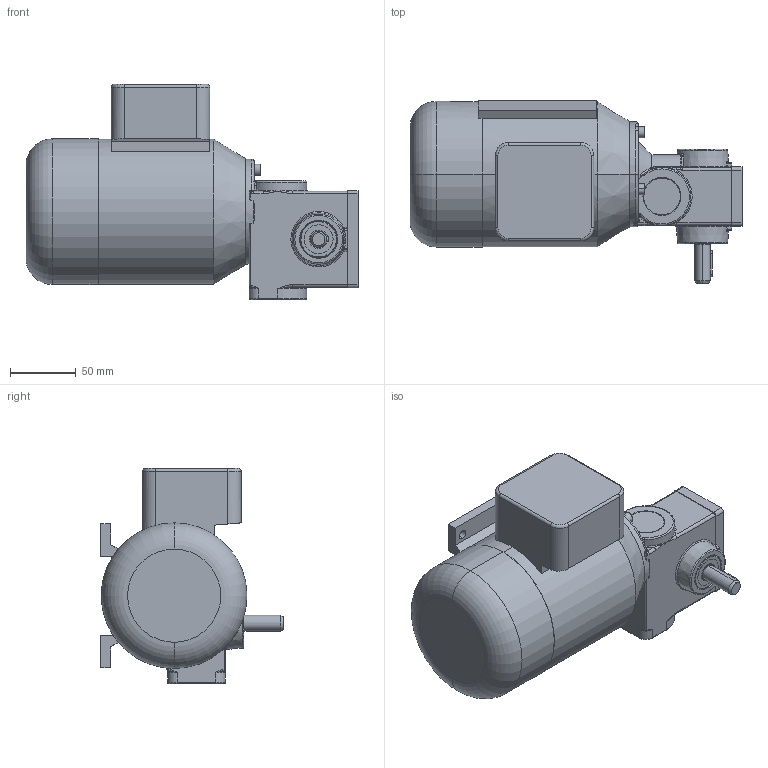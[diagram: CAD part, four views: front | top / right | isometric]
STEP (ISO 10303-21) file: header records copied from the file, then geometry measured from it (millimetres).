
FILE_DESCRIPTION (( 'STEP AP214' ), '1' );
FILE_NAME ('SN6_90W_1400Upm_Drehstrom-Motor_B.STEP', '2021-08-10T12:17:27', ( '' ), ( '' ), 'SwSTEP 2.0', 'SolidWorks 2019', '' );
FILE_SCHEMA (( 'AUTOMOTIVE_DESIGN' ));
Length unit declared in the file: millimetre
Products named in the file (12): 06-W-001_3D_Export; socket head cap screw_iso_ISO 4762 M5 x 16 - 16C; 06-G-001_3D_Export; NBR_WDR_12x28x7; K_28x9.0; K_28x4.0; SN6_90W_1400Upm_Drehstrom-Motor_B; PF_A4x4x20; socket head cap screw_iso_ISO 4762 M3 x 10 - 10C; SN6_3D_Export; 06F-D-003_3D-Export; 06-M-017 I 90W_1400Upm_B3
Assembly tree (17 placements, depth 3):
  SN6_90W_1400Upm_Drehstrom-Motor_B
    SN6_3D_Export
      06-G-001_3D_Export
      06F-D-003_3D-Export
      06-W-001_3D_Export
      PF_A4x4x20
      NBR_WDR_12x28x7
      K_28x9.0
      K_28x4.0  x2
      socket head cap screw_iso_ISO 4762 M5 x 16 - 16C  x3
      socket head cap screw_iso_ISO 4762 M3 x 10 - 10C  x4
    06-M-017 I 90W_1400Upm_B3
Bounding box: 253 x 139.2 x 164 mm (x, y, z)
Volume: 2153099.3 mm3; surface area: 161206.7 mm2
Topology: 16 solids, 16 shells, 630 faces, 1464 edges, 859 vertices
Faces by surface type: plane 213, cylinder 211, cone 84, torus 69, bspline 42, sphere 11
Entity records: 16183 total; most frequent: CARTESIAN_POINT 4403, DIRECTION 2498, ORIENTED_EDGE 2232, EDGE_CURVE 1116, AXIS2_PLACEMENT_3D 1023, VERTEX_POINT 685, CIRCLE 556, EDGE_LOOP 549
